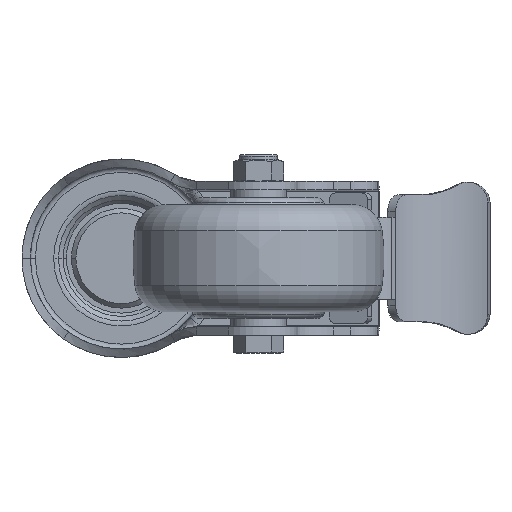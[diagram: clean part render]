
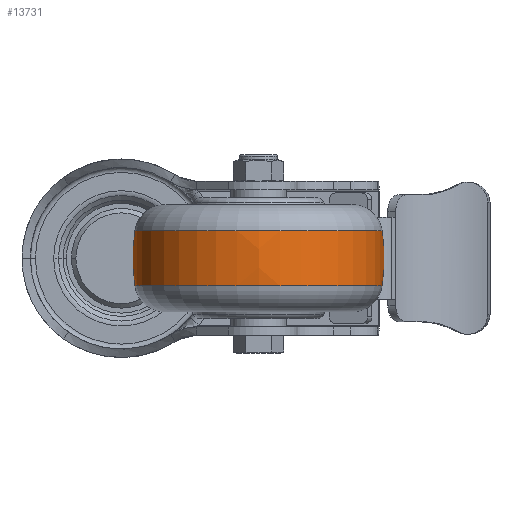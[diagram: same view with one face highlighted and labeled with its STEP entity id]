
A CAD part, front view. The second image highlights one B-rep face of the part: STEP entity #13731.
In plain terms, the highlighted free-form (B-spline) face has degree [3, 3] with [7, 4] control points.
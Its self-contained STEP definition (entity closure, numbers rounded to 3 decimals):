
#13269=CARTESIAN_POINT('',(-8.235,0.,0.));
#13270=DIRECTION('',(-1.,0.,0.));
#13271=DIRECTION('',(0.,1.,0.));
#13272=AXIS2_PLACEMENT_3D('',#13269,#13270,#13271);
#13284=CARTESIAN_POINT('',(0.,-22.5,0.));
#13285=DIRECTION('',(0.,0.,1.));
#13286=DIRECTION('',(0.137,0.991,0.));
#13287=AXIS2_PLACEMENT_3D('',#13284,#13285,#13286);
#13289=CARTESIAN_POINT('',(0.,22.5,0.));
#13290=DIRECTION('',(0.,0.,-1.));
#13291=DIRECTION('',(0.137,-0.991,0.));
#13292=AXIS2_PLACEMENT_3D('',#13289,#13290,#13291);
#13294=CARTESIAN_POINT('',(8.235,0.,0.));
#13295=DIRECTION('',(-1.,0.,0.));
#13296=DIRECTION('',(0.,1.,0.));
#13297=AXIS2_PLACEMENT_3D('',#13294,#13295,#13296);
#13461=CARTESIAN_POINT('',(8.235,36.932,0.));
#13463=VERTEX_POINT('',#13461);
#13464=CARTESIAN_POINT('',(-8.235,36.932,0.));
#13465=VERTEX_POINT('',#13464);
#13469=CARTESIAN_POINT('',(8.235,-36.932,0.));
#13471=VERTEX_POINT('',#13469);
#13472=CARTESIAN_POINT('',(-8.235,-36.932,0.));
#13473=VERTEX_POINT('',#13472);
#13695=CARTESIAN_POINT('',(-8.563,-36.813,
2.316));
#13696=CARTESIAN_POINT('',(-2.874,-37.632,
2.368));
#13697=CARTESIAN_POINT('',(2.874,-37.632,
2.368));
#13698=CARTESIAN_POINT('',(8.563,-36.813,
2.316));
#13699=CARTESIAN_POINT('',(-8.563,-38.238,
-20.339));
#13700=CARTESIAN_POINT('',(-2.874,-39.089,
-20.791));
#13701=CARTESIAN_POINT('',(2.874,-39.089,
-20.791));
#13702=CARTESIAN_POINT('',(8.563,-38.238,
-20.339));
#13703=CARTESIAN_POINT('',(-8.563,-22.7,
-36.886));
#13704=CARTESIAN_POINT('',(-2.874,-23.204,
-37.706));
#13705=CARTESIAN_POINT('',(2.874,-23.204,
-37.706));
#13706=CARTESIAN_POINT('',(8.563,-22.7,
-36.886));
#13707=CARTESIAN_POINT('',(-8.563,0.,
-36.886));
#13708=CARTESIAN_POINT('',(-2.874,0.,
-37.706));
#13709=CARTESIAN_POINT('',(2.874,0.,
-37.706));
#13710=CARTESIAN_POINT('',(8.563,0.,
-36.886));
#13711=CARTESIAN_POINT('',(-8.563,22.7,
-36.886));
#13712=CARTESIAN_POINT('',(-2.874,23.204,
-37.706));
#13713=CARTESIAN_POINT('',(2.874,23.204,
-37.706));
#13714=CARTESIAN_POINT('',(8.563,22.7,
-36.886));
#13715=CARTESIAN_POINT('',(-8.563,38.238,
-20.339));
#13716=CARTESIAN_POINT('',(-2.874,39.089,
-20.791));
#13717=CARTESIAN_POINT('',(2.874,39.089,
-20.791));
#13718=CARTESIAN_POINT('',(8.563,38.238,
-20.339));
#13719=CARTESIAN_POINT('',(-8.563,36.813,
2.316));
#13720=CARTESIAN_POINT('',(-2.874,37.632,
2.368));
#13721=CARTESIAN_POINT('',(2.874,37.632,2.368));
#13722=CARTESIAN_POINT('',(8.563,36.813,2.316));
#13723=(BOUNDED_SURFACE()B_SPLINE_SURFACE(3,3,((#13695,#13696,#13697,#13698),(
#13699,#13700,#13701,#13702),(#13703,#13704,#13705,#13706),(#13707,#13708,
#13709,#13710),(#13711,#13712,#13713,#13714),(#13715,#13716,#13717,#13718),(
#13719,#13720,#13721,#13722)),.UNSPECIFIED.,.F.,.F.,.F.)B_SPLINE_SURFACE_WITH_KNOTS((4,3,4),(4,4),(0.,1.,2.),(0.,1.),.UNSPECIFIED.)GEOMETRIC_REPRESENTATION_ITEM()RATIONAL_B_SPLINE_SURFACE(((1.193,1.185,
1.185,1.193),(0.942,0.936,
0.936,0.942),(0.942,0.936,
0.936,0.942),(1.193,1.185,
1.185,1.193),(0.942,0.936,
0.936,0.942),(0.942,0.936,
0.936,0.942),(1.193,1.185,
1.185,1.193)))REPRESENTATION_ITEM('')SURFACE());
#13724=ORIENTED_EDGE('',*,*,#13685,.T.);
#13725=ORIENTED_EDGE('',*,*,#13638,.T.);
#13726=ORIENTED_EDGE('',*,*,#13689,.F.);
#13728=ORIENTED_EDGE('',*,*,#13727,.F.);
#13729=EDGE_LOOP('',(#13724,#13725,#13726,#13728));
#13730=FACE_OUTER_BOUND('',#13729,.F.);
#13273=CIRCLE('',#13272,36.932);
#13288=CIRCLE('',#13287,60.);
#13293=CIRCLE('',#13292,60.);
#13298=CIRCLE('',#13297,36.932);
#13638=EDGE_CURVE('',#13465,#13473,#13273,.T.);
#13685=EDGE_CURVE('',#13463,#13465,#13288,.T.);
#13689=EDGE_CURVE('',#13471,#13473,#13293,.T.);
#13727=EDGE_CURVE('',#13463,#13471,#13298,.T.);
#13731=ADVANCED_FACE('',(#13730),#13723,.T.);
